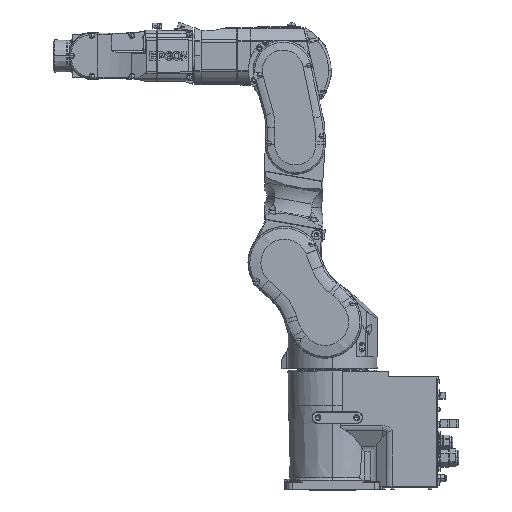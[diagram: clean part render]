
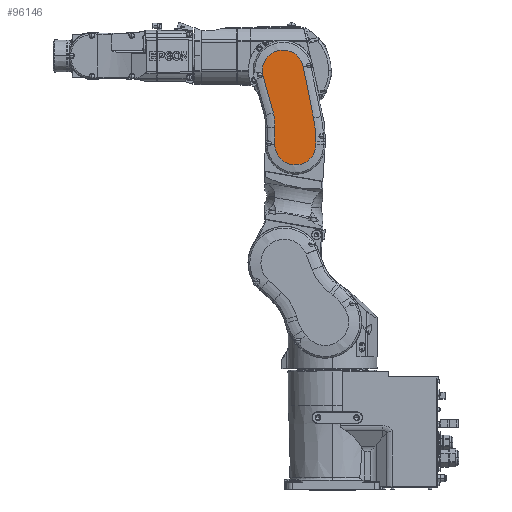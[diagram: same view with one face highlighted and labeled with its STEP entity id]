
A CAD part, top view. The second image highlights one B-rep face of the part: STEP entity #96146.
In plain terms, the highlighted planar face has unit normal (0, 0, 1) as drawn and (0, 0, -1) by its records, which use the part's own axes.
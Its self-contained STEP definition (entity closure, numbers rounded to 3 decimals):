
#4318 = CIRCLE ( 'NONE', #103584, 250.75 ) ;
#4756 = B_SPLINE_CURVE_WITH_KNOTS ( 'NONE', 3,
 ( #85221, #19425, #31341, #115292 ),
 .UNSPECIFIED., .F., .F.,
 ( 4, 4 ),
 ( 0., 1. ),
 .UNSPECIFIED. ) ;
#9226 = CARTESIAN_POINT ( 'NONE',  ( -65.554, 251.089, -107. ) ) ;
#11295 = VERTEX_POINT ( 'NONE', #179950 ) ;
#18170 = DIRECTION ( 'NONE',  ( 0., 0., 1. ) ) ;
#18277 = ORIENTED_EDGE ( 'NONE', *, *, #36267, .T. ) ;
#19425 = CARTESIAN_POINT ( 'NONE',  ( 37.05, 362.44, -107. ) ) ;
#20935 = CIRCLE ( 'NONE', #146206, 169.25 ) ;
#24616 = FACE_OUTER_BOUND ( 'NONE', #125816, .T. ) ;
#27125 = AXIS2_PLACEMENT_3D ( 'NONE', #83536, #112722, #170292 ) ;
#27201 = CARTESIAN_POINT ( 'NONE',  ( 22.931, 311.563, -107. ) ) ;
#27297 = VERTEX_POINT ( 'NONE', #119861 ) ;
#31341 = CARTESIAN_POINT ( 'NONE',  ( 29.991, 337.002, -107. ) ) ;
#36267 = EDGE_CURVE ( 'NONE', #87631, #38662, #79550, .T. ) ;
#36807 = CIRCLE ( 'NONE', #71682, 42.75 ) ;
#38662 = VERTEX_POINT ( 'NONE', #127940 ) ;
#44524 = DIRECTION ( 'NONE',  ( 0., 1., 0. ) ) ;
#47574 = DIRECTION ( 'NONE',  ( 0., 0., -1. ) ) ;
#48138 = LINE ( 'NONE', #116640, #52600 ) ;
#49036 = DIRECTION ( 'NONE',  ( 0.198, 0.98, 0. ) ) ;
#49464 = EDGE_CURVE ( 'NONE', #118101, #127619, #4318, .T. ) ;
#49514 = CARTESIAN_POINT ( 'NONE',  ( 22.737, 311.617, -107. ) ) ;
#49693 = EDGE_CURVE ( 'NONE', #142249, #27297, #100748, .T. ) ;
#52175 = AXIS2_PLACEMENT_3D ( 'NONE', #167086, #122284, #165293 ) ;
#52600 = VECTOR ( 'NONE', #49036, 1000. ) ;
#57014 = VERTEX_POINT ( 'NONE', #121947 ) ;
#57447 = CARTESIAN_POINT ( 'NONE',  ( 189.196, 281.011, -107. ) ) ;
#70953 = ORIENTED_EDGE ( 'NONE', *, *, #139626, .T. ) ;
#71682 = AXIS2_PLACEMENT_3D ( 'NONE', #73003, #72091, #100470 ) ;
#72091 = DIRECTION ( 'NONE',  ( 0., 0., -1. ) ) ;
#73003 = CARTESIAN_POINT ( 'NONE',  ( -22.804, 246., -107. ) ) ;
#73012 = ORIENTED_EDGE ( 'NONE', *, *, #118821, .F. ) ;
#76302 = EDGE_CURVE ( 'NONE', #142249, #123142, #20935, .T. ) ;
#78627 = LINE ( 'NONE', #9226, #149552 ) ;
#79550 = CIRCLE ( 'NONE', #27125, 42.75 ) ;
#83536 = CARTESIAN_POINT ( 'NONE',  ( 2.916, 399.311, -107. ) ) ;
#84886 = DIRECTION ( 'NONE',  ( -0.984, 0.181, 0. ) ) ;
#85221 = CARTESIAN_POINT ( 'NONE',  ( 44.11, 387.879, -107. ) ) ;
#85249 = ORIENTED_EDGE ( 'NONE', *, *, #49693, .F. ) ;
#86846 = EDGE_CURVE ( 'NONE', #127619, #87631, #48138, .T. ) ;
#86915 = EDGE_CURVE ( 'NONE', #38662, #27297, #4756, .T. ) ;
#87631 = VERTEX_POINT ( 'NONE', #106652 ) ;
#91431 = CARTESIAN_POINT ( 'NONE',  ( 22.801, 311.599, -107. ) ) ;
#96146 = ADVANCED_FACE ( 'NONE', ( #24616 ), #110430, .F. ) ;
#100470 = DIRECTION ( 'NONE',  ( 1., 0., 0. ) ) ;
#100748 = B_SPLINE_CURVE_WITH_KNOTS ( 'NONE', 3,
 ( #132510, #91431, #123953, #27201 ),
 .UNSPECIFIED., .F., .F.,
 ( 4, 4 ),
 ( 0., 1. ),
 .UNSPECIFIED. ) ;
#103584 = AXIS2_PLACEMENT_3D ( 'NONE', #111636, #47574, #157252 ) ;
#104785 = CARTESIAN_POINT ( 'NONE',  ( -65.554, 251.089, -107. ) ) ;
#106652 = CARTESIAN_POINT ( 'NONE',  ( -38.989, 407.768, -107. ) ) ;
#106707 = CARTESIAN_POINT ( 'NONE',  ( -60.598, 300.694, -107. ) ) ;
#106953 = DIRECTION ( 'NONE',  ( 0., -1., 0. ) ) ;
#110430 = PLANE ( 'NONE',  #52175 ) ;
#111636 = CARTESIAN_POINT ( 'NONE',  ( 185.196, 251.089, -107. ) ) ;
#112722 = DIRECTION ( 'NONE',  ( 0., 0., -1. ) ) ;
#113940 = LINE ( 'NONE', #169720, #125886 ) ;
#115292 = CARTESIAN_POINT ( 'NONE',  ( 22.931, 311.563, -107. ) ) ;
#115548 = ORIENTED_EDGE ( 'NONE', *, *, #86915, .T. ) ;
#116640 = CARTESIAN_POINT ( 'NONE',  ( -60.598, 300.694, -107. ) ) ;
#118101 = VERTEX_POINT ( 'NONE', #104785 ) ;
#118821 = EDGE_CURVE ( 'NONE', #11295, #123142, #113940, .T. ) ;
#119861 = CARTESIAN_POINT ( 'NONE',  ( 22.931, 311.563, -107. ) ) ;
#121947 = CARTESIAN_POINT ( 'NONE',  ( -65.554, 246., -107. ) ) ;
#122284 = DIRECTION ( 'NONE',  ( 0., 0., 1. ) ) ;
#123142 = VERTEX_POINT ( 'NONE', #135877 ) ;
#123953 = CARTESIAN_POINT ( 'NONE',  ( 22.866, 311.581, -107. ) ) ;
#125816 = EDGE_LOOP ( 'NONE', ( #169440, #73012, #70953, #180406, #144061, #175570, #18277, #115548, #85249 ) ) ;
#125886 = VECTOR ( 'NONE', #44524, 1000. ) ;
#127619 = VERTEX_POINT ( 'NONE', #106707 ) ;
#127940 = CARTESIAN_POINT ( 'NONE',  ( 44.11, 387.879, -107. ) ) ;
#132510 = CARTESIAN_POINT ( 'NONE',  ( 22.737, 311.617, -107. ) ) ;
#135877 = CARTESIAN_POINT ( 'NONE',  ( 19.946, 281.011, -107. ) ) ;
#139626 = EDGE_CURVE ( 'NONE', #11295, #57014, #36807, .T. ) ;
#142249 = VERTEX_POINT ( 'NONE', #49514 ) ;
#144061 = ORIENTED_EDGE ( 'NONE', *, *, #49464, .T. ) ;
#146206 = AXIS2_PLACEMENT_3D ( 'NONE', #57447, #18170, #84886 ) ;
#147840 = EDGE_CURVE ( 'NONE', #118101, #57014, #78627, .T. ) ;
#149552 = VECTOR ( 'NONE', #106953, 1000. ) ;
#157252 = DIRECTION ( 'NONE',  ( -1., 0., 0. ) ) ;
#165293 = DIRECTION ( 'NONE',  ( 1., 0., 0. ) ) ;
#167086 = CARTESIAN_POINT ( 'NONE',  ( -22.804, 246., -107. ) ) ;
#169440 = ORIENTED_EDGE ( 'NONE', *, *, #76302, .T. ) ;
#169720 = CARTESIAN_POINT ( 'NONE',  ( 19.946, 246., -107. ) ) ;
#170292 = DIRECTION ( 'NONE',  ( -0.98, 0.198, 0. ) ) ;
#175570 = ORIENTED_EDGE ( 'NONE', *, *, #86846, .T. ) ;
#179950 = CARTESIAN_POINT ( 'NONE',  ( 19.946, 246., -107. ) ) ;
#180406 = ORIENTED_EDGE ( 'NONE', *, *, #147840, .F. ) ;
